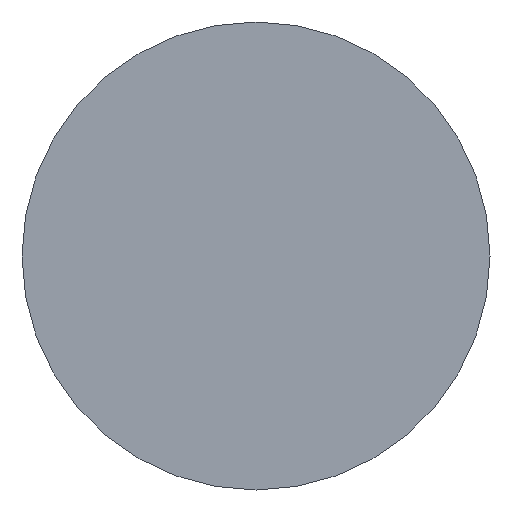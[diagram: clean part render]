
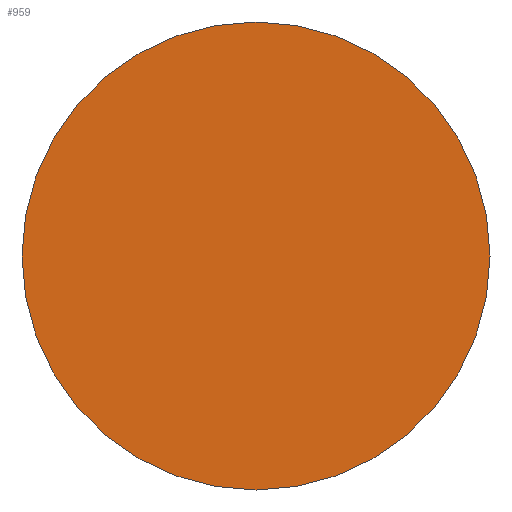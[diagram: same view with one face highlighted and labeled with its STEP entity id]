
A CAD part, front view. The second image highlights one B-rep face of the part: STEP entity #959.
In plain terms, the highlighted planar face has unit normal (0, -1, 0).
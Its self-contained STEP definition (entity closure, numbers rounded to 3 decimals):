
#201 = CARTESIAN_POINT ( 'NONE',  ( 0., 0., 40. ) ) ;
#207 = CARTESIAN_POINT ( 'NONE',  ( 0., 0., -40. ) ) ;
#746 = DIRECTION ( 'NONE',  ( 0., 0., 1. ) ) ;
#747 = DIRECTION ( 'NONE',  ( 0., 1., 0. ) ) ;
#748 = CARTESIAN_POINT ( 'NONE',  ( 0., 0., 40. ) ) ;
#749 = AXIS2_PLACEMENT_3D ( 'NONE', #748, #747, #746 ) ;
#750 = PLANE ( 'NONE',  #749 ) ;
#751 = FACE_OUTER_BOUND ( 'NONE', #1115, .T. ) ;
#752 = DIRECTION ( 'NONE',  ( 0., 0., -1. ) ) ;
#753 = DIRECTION ( 'NONE',  ( 0., -1., 0. ) ) ;
#754 = CARTESIAN_POINT ( 'NONE',  ( 0., 0., 0. ) ) ;
#755 = AXIS2_PLACEMENT_3D ( 'NONE', #754, #753, #752 ) ;
#756 = CIRCLE ( 'NONE', #755, 40. ) ;
#839 = DIRECTION ( 'NONE',  ( 0., -1., 0. ) ) ;
#840 = CARTESIAN_POINT ( 'NONE',  ( 0., 0., 0. ) ) ;
#841 = AXIS2_PLACEMENT_3D ( 'NONE', #840, #839, #902 ) ;
#842 = CIRCLE ( 'NONE', #841, 40. ) ;
#902 = DIRECTION ( 'NONE',  ( 0., 0., -1. ) ) ;
#958 = EDGE_CURVE ( 'NONE', #1110, #1108, #756, .T. ) ;
#959 = ADVANCED_FACE ( 'NONE', ( #751 ), #750, .F. ) ;
#960 = ORIENTED_EDGE ( 'NONE', *, *, #1022, .T. ) ;
#961 = ORIENTED_EDGE ( 'NONE', *, *, #958, .T. ) ;
#1022 = EDGE_CURVE ( 'NONE', #1108, #1110, #842, .T. ) ;
#1108 = VERTEX_POINT ( 'NONE', #207 ) ;
#1110 = VERTEX_POINT ( 'NONE', #201 ) ;
#1115 = EDGE_LOOP ( 'NONE', ( #960, #961 ) ) ;
